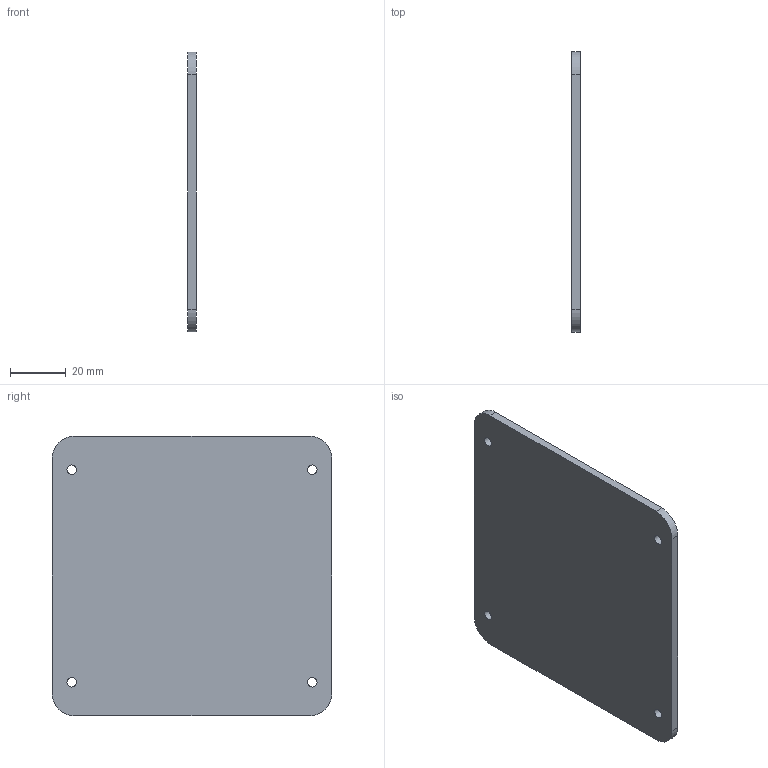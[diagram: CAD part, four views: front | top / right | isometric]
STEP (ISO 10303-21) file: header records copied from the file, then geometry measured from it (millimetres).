
FILE_DESCRIPTION(('Open CASCADE Model'),'2;1');
FILE_NAME('Open CASCADE Shape Model','2026-10-07T22:00:03',('Author'),( 'Open CASCADE'),'Open CASCADE STEP processor 7.9','Open CASCADE 7.9' ,'Unknown');
FILE_SCHEMA(('AUTOMOTIVE_DESIGN { 1 0 10303 214 1 1 1 1 }'));
Length unit declared in the file: millimetre
Products named in the file (1): Open CASCADE STEP translator 7.9 5
Bounding box: 3 x 100 x 100 mm (x, y, z)
Volume: 24631 mm3; surface area: 21352.2 mm2
Topology: 1 solids, 1 shells, 23 faces, 60 edges, 40 vertices
Faces by surface type: cylinder 12, plane 11
Full cylindrical faces by diameter (mm): 3.4 x4
Entity records: 1561 total; most frequent: CARTESIAN_POINT 342, DIRECTION 229, LINE 124, VECTOR 124, ORIENTED_EDGE 120, PCURVE 120, DEFINITIONAL_REPRESENTATION 120, EDGE_CURVE 60
